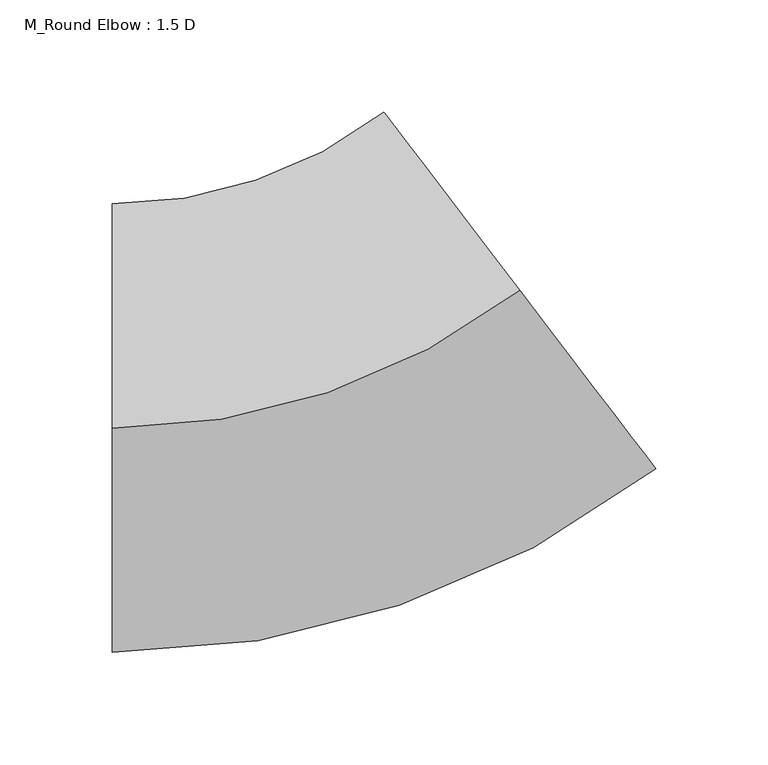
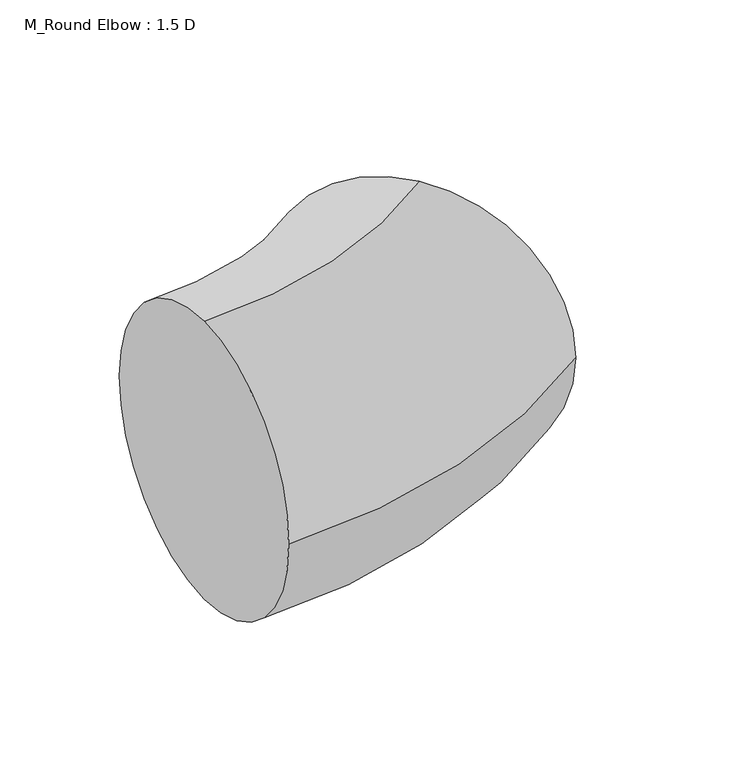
"""IFC4 building model written with IfcOpenShell, lengths in millimetres: duct fitting geometry, M_Round Elbow : 1.5 D."""

from ifc_helpers import new_model, si_unit, point, frame, origin, place, context, project, spatial, circle_curve, ellipse_curve, trimmed, source, transform, mapped, element, save
from ifc_brep_helpers import plane_surface, revolved_surface, advanced_brep


def m_round_elbow_1_5_d_143daf02(model_context):
    return source(origin(), model_context, "Body", "AdvancedBrep", [
        advanced_brep(
        [(-101.3103673, 0.0, 100.0), (-101.3103673, 100.0, 0.0), (-101.3103673, 0.0, -100.0), (-101.3103673, -100.0, 0.0), (80.5685146, 61.4207211, 100.0), (141.1948086, -18.1057051, 0.0), (80.5685146, 61.4207211, -100.0), (19.9422206, 140.9471474, 0.0)],
        [
            (0, 1, circle_curve(frame((-101.3103673, 0.0, 0.0), z_axis=(-1.0, 0.0, 0.0), x_axis=(0.0, 1.0, 0.0)), 100.0)),
            (1, 2, circle_curve(frame((-101.3103673, 0.0, 0.0), z_axis=(-1.0, 0.0, 0.0), x_axis=(0.0, 1.0, 0.0)), 100.0)),
            (2, 3, circle_curve(frame((-101.3103673, 0.0, 0.0), z_axis=(-1.0, 0.0, 0.0), x_axis=(0.0, 1.0, 0.0)), 100.0)),
            (3, 0, circle_curve(frame((-101.3103673, 0.0, 0.0), z_axis=(-1.0, 0.0, 0.0), x_axis=(0.0, 1.0, 0.0)), 100.0)),
            (4, 5, circle_curve(frame((80.5685146, 61.4207211, 0.0), z_axis=(0.7952642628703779, 0.6062629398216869, 0.0), x_axis=(-0.6062629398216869, 0.7952642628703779, 0.0)), 100.0)),
            (5, 6, circle_curve(frame((80.5685146, 61.4207211, 0.0), z_axis=(0.7952642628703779, 0.6062629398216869, 0.0), x_axis=(-0.6062629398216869, 0.7952642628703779, 0.0)), 100.0)),
            (6, 7, circle_curve(frame((80.5685146, 61.4207211, 0.0), z_axis=(0.7952642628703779, 0.6062629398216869, 0.0), x_axis=(-0.6062629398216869, 0.7952642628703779, 0.0)), 100.0)),
            (7, 4, circle_curve(frame((80.5685146, 61.4207211, 0.0), z_axis=(0.7952642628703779, 0.6062629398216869, 0.0), x_axis=(-0.6062629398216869, 0.7952642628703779, 0.0)), 100.0)),
            (7, 1, circle_curve(frame((-101.3103673, 300.0, 0.0), z_axis=(0.0, 0.0, -1.0), x_axis=(0.0, -1.0, 0.0)), 200.0)),
            (0, 4, circle_curve(frame((-101.3103673, 300.0, 100.0), z_axis=(0.0, 0.0, 1.0), x_axis=(0.0, -1.0, 0.0)), 300.0)),
            (6, 2, circle_curve(frame((-101.3103673, 300.0, -100.0), z_axis=(0.0, 0.0, -1.0), x_axis=(0.0, -1.0, 0.0)), 300.0)),
            (5, 3, circle_curve(frame((-101.3103673, 300.0, 0.0), z_axis=(0.0, 0.0, -1.0), x_axis=(0.0, -1.0, 0.0)), 400.0)),
        ],
        [
            plane_surface(frame((-101.3103673, 0.0, 0.0), z_axis=(-1.0, 0.0, 0.0), x_axis=(0.0, 0.0, 1.0))),
            plane_surface(frame((80.5685146, 61.4207211, 0.0), z_axis=(0.7952642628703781, 0.6062629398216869, 0.0), x_axis=(0.0, 0.0, 1.0))),
            revolved_surface(trimmed(ellipse_curve(frame((-101.3103673, 0.0, 0.0), z_axis=(-1.0, 0.0, 0.0), x_axis=(0.0, 1.0, 0.0)), 100.0, 100.0), [point((-101.3103673, 0.0, 100.0))], [point((-101.3103673, 100.0, 0.0))], True, "CARTESIAN"), (-101.3103673, 300.0, 0.0), (0.0, 0.0, 1.0)),
            revolved_surface(trimmed(ellipse_curve(frame((-101.3103673, 0.0, 0.0), z_axis=(-1.0, 0.0, 0.0), x_axis=(0.0, 1.0, 0.0)), 100.0, 100.0), [point((-101.3103673, 100.0, 0.0))], [point((-101.3103673, 0.0, -100.0))], True, "CARTESIAN"), (-101.3103673, 300.0, 0.0), (0.0, 0.0, 1.0)),
            revolved_surface(trimmed(ellipse_curve(frame((-101.3103673, 0.0, 0.0), z_axis=(-1.0, 0.0, 0.0), x_axis=(0.0, 1.0, 0.0)), 100.0, 100.0), [point((-101.3103673, 0.0, -100.0))], [point((-101.3103673, -100.0, 0.0))], True, "CARTESIAN"), (-101.3103673, 300.0, 0.0), (0.0, 0.0, 1.0)),
            revolved_surface(trimmed(ellipse_curve(frame((-101.3103673, 0.0, 0.0), z_axis=(-1.0, 0.0, 0.0), x_axis=(0.0, 1.0, 0.0)), 100.0, 100.0), [point((-101.3103673, -100.0, 0.0))], [point((-101.3103673, 0.0, 100.0))], True, "CARTESIAN"), (-101.3103673, 300.0, 0.0), (0.0, 0.0, 1.0)),
        ],
        [
            (0, [[1, 2, 3, 4]]),
            (1, [[5, 6, 7, 8]]),
            (2, [[9, -1, 10, -8]]),
            (3, [[11, -2, -9, -7]]),
            (4, [[12, -3, -11, -6]]),
            (5, [[-10, -4, -12, -5]]),
        ],
    ),
        advanced_brep(
        [(-101.3103673, 0.0, 100.0), (-101.3103673, 100.0, 0.0), (-101.3103673, 0.0, -100.0), (-101.3103673, -100.0, 0.0), (80.5685146, 61.4207211, 100.0), (141.1948086, -18.1057051, 0.0), (80.5685146, 61.4207211, -100.0), (19.9422206, 140.9471474, 0.0)],
        [
            (0, 1, circle_curve(frame((-101.3103673, 0.0, 0.0), z_axis=(-1.0, 0.0, 0.0), x_axis=(0.0, 1.0, 0.0)), 100.0)),
            (1, 2, circle_curve(frame((-101.3103673, 0.0, 0.0), z_axis=(-1.0, 0.0, 0.0), x_axis=(0.0, 1.0, 0.0)), 100.0)),
            (2, 3, circle_curve(frame((-101.3103673, 0.0, 0.0), z_axis=(-1.0, 0.0, 0.0), x_axis=(0.0, 1.0, 0.0)), 100.0)),
            (3, 0, circle_curve(frame((-101.3103673, 0.0, 0.0), z_axis=(-1.0, 0.0, 0.0), x_axis=(0.0, 1.0, 0.0)), 100.0)),
            (4, 5, circle_curve(frame((80.5685146, 61.4207211, 0.0), z_axis=(0.7952642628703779, 0.6062629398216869, 0.0), x_axis=(-0.6062629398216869, 0.7952642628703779, 0.0)), 100.0)),
            (5, 6, circle_curve(frame((80.5685146, 61.4207211, 0.0), z_axis=(0.7952642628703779, 0.6062629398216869, 0.0), x_axis=(-0.6062629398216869, 0.7952642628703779, 0.0)), 100.0)),
            (6, 7, circle_curve(frame((80.5685146, 61.4207211, 0.0), z_axis=(0.7952642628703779, 0.6062629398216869, 0.0), x_axis=(-0.6062629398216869, 0.7952642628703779, 0.0)), 100.0)),
            (7, 4, circle_curve(frame((80.5685146, 61.4207211, 0.0), z_axis=(0.7952642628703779, 0.6062629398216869, 0.0), x_axis=(-0.6062629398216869, 0.7952642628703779, 0.0)), 100.0)),
            (7, 1, circle_curve(frame((-101.3103673, 300.0, 0.0), z_axis=(0.0, 0.0, -1.0), x_axis=(0.0, -1.0, 0.0)), 200.0)),
            (0, 4, circle_curve(frame((-101.3103673, 300.0, 100.0), z_axis=(0.0, 0.0, 1.0), x_axis=(0.0, -1.0, 0.0)), 300.0)),
            (6, 2, circle_curve(frame((-101.3103673, 300.0, -100.0), z_axis=(0.0, 0.0, -1.0), x_axis=(0.0, -1.0, 0.0)), 300.0)),
            (5, 3, circle_curve(frame((-101.3103673, 300.0, 0.0), z_axis=(0.0, 0.0, -1.0), x_axis=(0.0, -1.0, 0.0)), 400.0)),
        ],
        [
            plane_surface(frame((-101.3103673, 0.0, 0.0), z_axis=(-1.0, 0.0, 0.0), x_axis=(0.0, 0.0, 1.0))),
            plane_surface(frame((80.5685146, 61.4207211, 0.0), z_axis=(0.7952642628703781, 0.6062629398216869, 0.0), x_axis=(0.0, 0.0, 1.0))),
            revolved_surface(trimmed(ellipse_curve(frame((-101.3103673, 0.0, 0.0), z_axis=(-1.0, 0.0, 0.0), x_axis=(0.0, 1.0, 0.0)), 100.0, 100.0), [point((-101.3103673, 0.0, 100.0))], [point((-101.3103673, 100.0, 0.0))], True, "CARTESIAN"), (-101.3103673, 300.0, 0.0), (0.0, 0.0, 1.0)),
            revolved_surface(trimmed(ellipse_curve(frame((-101.3103673, 0.0, 0.0), z_axis=(-1.0, 0.0, 0.0), x_axis=(0.0, 1.0, 0.0)), 100.0, 100.0), [point((-101.3103673, 100.0, 0.0))], [point((-101.3103673, 0.0, -100.0))], True, "CARTESIAN"), (-101.3103673, 300.0, 0.0), (0.0, 0.0, 1.0)),
            revolved_surface(trimmed(ellipse_curve(frame((-101.3103673, 0.0, 0.0), z_axis=(-1.0, 0.0, 0.0), x_axis=(0.0, 1.0, 0.0)), 100.0, 100.0), [point((-101.3103673, 0.0, -100.0))], [point((-101.3103673, -100.0, 0.0))], True, "CARTESIAN"), (-101.3103673, 300.0, 0.0), (0.0, 0.0, 1.0)),
            revolved_surface(trimmed(ellipse_curve(frame((-101.3103673, 0.0, 0.0), z_axis=(-1.0, 0.0, 0.0), x_axis=(0.0, 1.0, 0.0)), 100.0, 100.0), [point((-101.3103673, -100.0, 0.0))], [point((-101.3103673, 0.0, 100.0))], True, "CARTESIAN"), (-101.3103673, 300.0, 0.0), (0.0, 0.0, 1.0)),
        ],
        [
            (0, [[1, 2, 3, 4]]),
            (1, [[5, 6, 7, 8]]),
            (2, [[9, -1, 10, -8]]),
            (3, [[11, -2, -9, -7]]),
            (4, [[12, -3, -11, -6]]),
            (5, [[-10, -4, -12, -5]]),
        ],
    ),
        advanced_brep(
        [(-101.3103673, 0.0, 100.0), (-101.3103673, 100.0, 0.0), (-101.3103673, 0.0, -100.0), (-101.3103673, -100.0, 0.0), (80.5685146, 61.4207211, 100.0), (141.1948086, -18.1057051, 0.0), (80.5685146, 61.4207211, -100.0), (19.9422206, 140.9471474, 0.0)],
        [
            (0, 1, circle_curve(frame((-101.3103673, 0.0, 0.0), z_axis=(-1.0, 0.0, 0.0), x_axis=(0.0, 1.0, 0.0)), 100.0)),
            (1, 2, circle_curve(frame((-101.3103673, 0.0, 0.0), z_axis=(-1.0, 0.0, 0.0), x_axis=(0.0, 1.0, 0.0)), 100.0)),
            (2, 3, circle_curve(frame((-101.3103673, 0.0, 0.0), z_axis=(-1.0, 0.0, 0.0), x_axis=(0.0, 1.0, 0.0)), 100.0)),
            (3, 0, circle_curve(frame((-101.3103673, 0.0, 0.0), z_axis=(-1.0, 0.0, 0.0), x_axis=(0.0, 1.0, 0.0)), 100.0)),
            (4, 5, circle_curve(frame((80.5685146, 61.4207211, 0.0), z_axis=(0.7952642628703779, 0.6062629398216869, 0.0), x_axis=(-0.6062629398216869, 0.7952642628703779, 0.0)), 100.0)),
            (5, 6, circle_curve(frame((80.5685146, 61.4207211, 0.0), z_axis=(0.7952642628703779, 0.6062629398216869, 0.0), x_axis=(-0.6062629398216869, 0.7952642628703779, 0.0)), 100.0)),
            (6, 7, circle_curve(frame((80.5685146, 61.4207211, 0.0), z_axis=(0.7952642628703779, 0.6062629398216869, 0.0), x_axis=(-0.6062629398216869, 0.7952642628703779, 0.0)), 100.0)),
            (7, 4, circle_curve(frame((80.5685146, 61.4207211, 0.0), z_axis=(0.7952642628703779, 0.6062629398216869, 0.0), x_axis=(-0.6062629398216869, 0.7952642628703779, 0.0)), 100.0)),
            (7, 1, circle_curve(frame((-101.3103673, 300.0, 0.0), z_axis=(0.0, 0.0, -1.0), x_axis=(0.0, -1.0, 0.0)), 200.0)),
            (0, 4, circle_curve(frame((-101.3103673, 300.0, 100.0), z_axis=(0.0, 0.0, 1.0), x_axis=(0.0, -1.0, 0.0)), 300.0)),
            (6, 2, circle_curve(frame((-101.3103673, 300.0, -100.0), z_axis=(0.0, 0.0, -1.0), x_axis=(0.0, -1.0, 0.0)), 300.0)),
            (5, 3, circle_curve(frame((-101.3103673, 300.0, 0.0), z_axis=(0.0, 0.0, -1.0), x_axis=(0.0, -1.0, 0.0)), 400.0)),
        ],
        [
            plane_surface(frame((-101.3103673, 0.0, 0.0), z_axis=(-1.0, 0.0, 0.0), x_axis=(0.0, 0.0, 1.0))),
            plane_surface(frame((80.5685146, 61.4207211, 0.0), z_axis=(0.7952642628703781, 0.6062629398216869, 0.0), x_axis=(0.0, 0.0, 1.0))),
            revolved_surface(trimmed(ellipse_curve(frame((-101.3103673, 0.0, 0.0), z_axis=(-1.0, 0.0, 0.0), x_axis=(0.0, 1.0, 0.0)), 100.0, 100.0), [point((-101.3103673, 0.0, 100.0))], [point((-101.3103673, 100.0, 0.0))], True, "CARTESIAN"), (-101.3103673, 300.0, 0.0), (0.0, 0.0, 1.0)),
            revolved_surface(trimmed(ellipse_curve(frame((-101.3103673, 0.0, 0.0), z_axis=(-1.0, 0.0, 0.0), x_axis=(0.0, 1.0, 0.0)), 100.0, 100.0), [point((-101.3103673, 100.0, 0.0))], [point((-101.3103673, 0.0, -100.0))], True, "CARTESIAN"), (-101.3103673, 300.0, 0.0), (0.0, 0.0, 1.0)),
            revolved_surface(trimmed(ellipse_curve(frame((-101.3103673, 0.0, 0.0), z_axis=(-1.0, 0.0, 0.0), x_axis=(0.0, 1.0, 0.0)), 100.0, 100.0), [point((-101.3103673, 0.0, -100.0))], [point((-101.3103673, -100.0, 0.0))], True, "CARTESIAN"), (-101.3103673, 300.0, 0.0), (0.0, 0.0, 1.0)),
            revolved_surface(trimmed(ellipse_curve(frame((-101.3103673, 0.0, 0.0), z_axis=(-1.0, 0.0, 0.0), x_axis=(0.0, 1.0, 0.0)), 100.0, 100.0), [point((-101.3103673, -100.0, 0.0))], [point((-101.3103673, 0.0, 100.0))], True, "CARTESIAN"), (-101.3103673, 300.0, 0.0), (0.0, 0.0, 1.0)),
        ],
        [
            (0, [[1, 2, 3, 4]]),
            (1, [[5, 6, 7, 8]]),
            (2, [[9, -1, 10, -8]]),
            (3, [[11, -2, -9, -7]]),
            (4, [[12, -3, -11, -6]]),
            (5, [[-10, -4, -12, -5]]),
        ],
    ),
    ])


if __name__ == "__main__":
    model = new_model("IFC4")
    model_context = context("Model", 3, world=origin())
    ifc_project = project(units=[si_unit("LENGTHUNIT", "METRE", prefix="MILLI")], contexts=[model_context])
    site = spatial("IfcSite", under=ifc_project)
    building = spatial("IfcBuilding", under=site)
    placement = place(None, origin())
    m_round_elbow_1_5_d_shape = m_round_elbow_1_5_d_143daf02(model_context)
    element("IfcDuctFitting", 1, ObjectType="M_Round Elbow : 1.5 D", at=placement, inside=building, context=model_context, shape_type="MappedRepresentation", body=[
        mapped(m_round_elbow_1_5_d_shape, transform((0.0, 0.0, 0.0), x_axis=(1.0, 0.0, 0.0), y_axis=(0.0, 1.0, 0.0), z_axis=(0.0, 0.0, 1.0))),
    ])
    save(model, "model.ifc")
